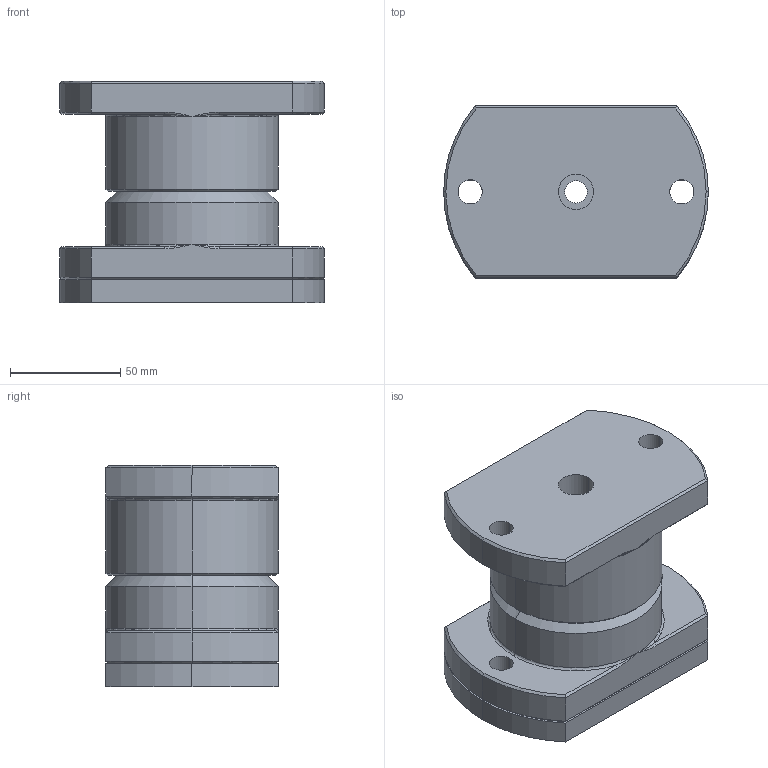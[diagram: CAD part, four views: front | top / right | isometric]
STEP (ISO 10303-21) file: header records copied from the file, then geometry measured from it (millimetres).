
FILE_DESCRIPTION(('CATIA V5 STEP Exchange'),'2;1');
FILE_NAME('C:\Users\Utente\Desktop\IO LAVORO\3D X SITO CF\X 3D SITO CF 27-09-2020\CFCCP\CFCCP12F\CFCCP12F.stp','2020-10-27T20:01:44+00:00',('none'),('none'),'CATIA Version 5 Release 20 GA (IN-10)','CATIA V5 STEP AP203','none');
FILE_SCHEMA(('CONFIG_CONTROL_DESIGN'));
Length unit declared in the file: millimetre
Products named in the file (1): CFCCP12F
Assembly tree (3 placements, depth 2):
  CFCCP12F
    #58
    #2497
    #5241
Bounding box: 120 x 78 x 100.5 mm (x, y, z)
Volume: 606270.4 mm3; surface area: 87740.1 mm2
Topology: 3 solids, 3 shells, 128 faces, 412 edges, 280 vertices
Faces by surface type: cylinder 48, cone 36, plane 28, torus 8, bspline 8
Entity records: 6007 total; most frequent: CARTESIAN_POINT 2605, ORIENTED_EDGE 800, DIRECTION 495, EDGE_CURVE 400, VERTEX_POINT 280, AXIS2_PLACEMENT_3D 254, B_SPLINE_CURVE_WITH_KNOTS 157, EDGE_LOOP 152
